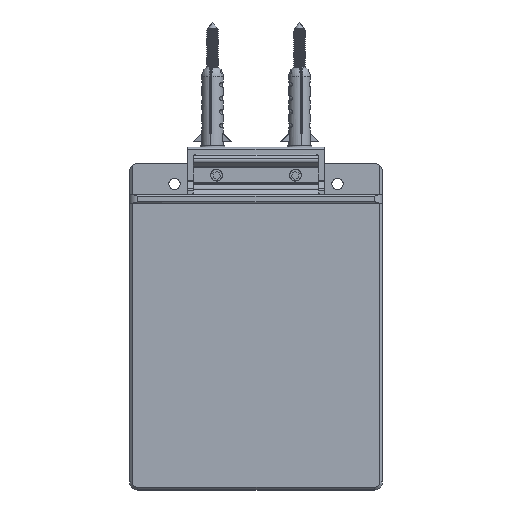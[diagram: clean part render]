
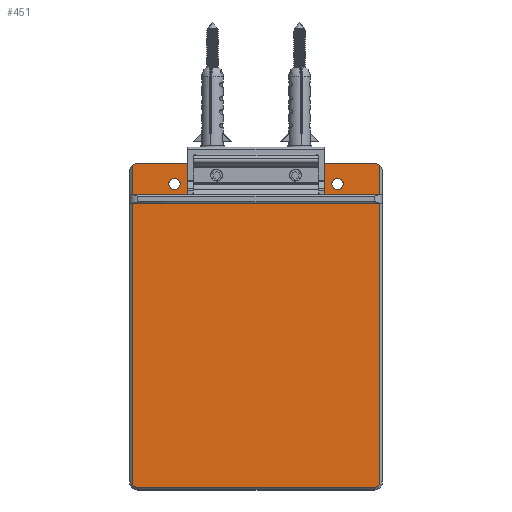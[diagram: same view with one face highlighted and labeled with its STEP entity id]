
A CAD part, front view. The second image highlights one B-rep face of the part: STEP entity #451.
In plain terms, the highlighted planar face has unit normal (0, -1, 0) as drawn and (0, 1, 0) by its records, which use the part's own axes.
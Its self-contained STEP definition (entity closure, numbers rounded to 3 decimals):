
#74 = EDGE_LOOP ( 'NONE', ( #3015, #19562 ) ) ;
#228 = AXIS2_PLACEMENT_3D ( 'NONE', #12761, #19065, #7594 ) ;
#256 = EDGE_CURVE ( 'NONE', #22562, #11544, #2352, .T. ) ;
#346 = VERTEX_POINT ( 'NONE', #8973 ) ;
#451 = ADVANCED_FACE ( 'NONE', ( #9547, #27166, #18086 ), #24668, .T. ) ;
#522 = VERTEX_POINT ( 'NONE', #22766 ) ;
#853 = VECTOR ( 'NONE', #1761, 1000. ) ;
#1538 = EDGE_LOOP ( 'NONE', ( #20199, #13604, #9579, #9861, #5447, #8101, #5039, #12631 ) ) ;
#1644 = AXIS2_PLACEMENT_3D ( 'NONE', #4857, #4721, #25133 ) ;
#1749 = CARTESIAN_POINT ( 'NONE',  ( 30., 0., 52.5 ) ) ;
#1761 = DIRECTION ( 'NONE',  ( -1., 0., 0. ) ) ;
#2242 = CARTESIAN_POINT ( 'NONE',  ( 45.5, 0., -57. ) ) ;
#2352 = CIRCLE ( 'NONE', #18811, 2. ) ;
#2625 = DIRECTION ( 'NONE',  ( 0., 0., 1. ) ) ;
#2698 = DIRECTION ( 'NONE',  ( 0., 0., 1. ) ) ;
#2740 = AXIS2_PLACEMENT_3D ( 'NONE', #1749, #4236, #12955 ) ;
#3015 = ORIENTED_EDGE ( 'NONE', *, *, #13388, .T. ) ;
#3017 = CARTESIAN_POINT ( 'NONE',  ( 43.5, 0., -59. ) ) ;
#3060 = CIRCLE ( 'NONE', #24119, 3. ) ;
#3220 = CARTESIAN_POINT ( 'NONE',  ( 43.5, 0., 57. ) ) ;
#4065 = AXIS2_PLACEMENT_3D ( 'NONE', #22514, #4280, #6353 ) ;
#4210 = VERTEX_POINT ( 'NONE', #8847 ) ;
#4236 = DIRECTION ( 'NONE',  ( 0., -1., 0. ) ) ;
#4280 = DIRECTION ( 'NONE',  ( 0., -1., 0. ) ) ;
#4461 = AXIS2_PLACEMENT_3D ( 'NONE', #25193, #27124, #9646 ) ;
#4667 = CARTESIAN_POINT ( 'NONE',  ( -30., 0., 54.6 ) ) ;
#4721 = DIRECTION ( 'NONE',  ( 0., -1., 0. ) ) ;
#4857 = CARTESIAN_POINT ( 'NONE',  ( 30., 0., 52.5 ) ) ;
#5039 = ORIENTED_EDGE ( 'NONE', *, *, #22293, .T. ) ;
#5274 = EDGE_CURVE ( 'NONE', #13455, #24355, #9249, .T. ) ;
#5447 = ORIENTED_EDGE ( 'NONE', *, *, #21714, .T. ) ;
#6317 = LINE ( 'NONE', #28782, #853 ) ;
#6353 = DIRECTION ( 'NONE',  ( 0., 0., -1. ) ) ;
#6535 = EDGE_LOOP ( 'NONE', ( #23553, #16594 ) ) ;
#7488 = DIRECTION ( 'NONE',  ( 0., 1., 0. ) ) ;
#7532 = LINE ( 'NONE', #7828, #11016 ) ;
#7594 = DIRECTION ( 'NONE',  ( 0., 0., -1. ) ) ;
#7668 = EDGE_CURVE ( 'NONE', #11544, #346, #6317, .T. ) ;
#7828 = CARTESIAN_POINT ( 'NONE',  ( -45.5, 0., 0. ) ) ;
#8101 = ORIENTED_EDGE ( 'NONE', *, *, #22777, .T. ) ;
#8847 = CARTESIAN_POINT ( 'NONE',  ( -45.5, 0., -57. ) ) ;
#8973 = CARTESIAN_POINT ( 'NONE',  ( -43.5, 0., -59. ) ) ;
#9112 = DIRECTION ( 'NONE',  ( 0., 1., 0. ) ) ;
#9249 = CIRCLE ( 'NONE', #4065, 2.1 ) ;
#9547 = FACE_BOUND ( 'NONE', #6535, .T. ) ;
#9579 = ORIENTED_EDGE ( 'NONE', *, *, #256, .T. ) ;
#9644 = VECTOR ( 'NONE', #14070, 1000. ) ;
#9646 = DIRECTION ( 'NONE',  ( 0., 0., 1. ) ) ;
#9861 = ORIENTED_EDGE ( 'NONE', *, *, #7668, .T. ) ;
#11016 = VECTOR ( 'NONE', #16808, 1000. ) ;
#11544 = VERTEX_POINT ( 'NONE', #3017 ) ;
#11570 = LINE ( 'NONE', #25332, #9644 ) ;
#11955 = LINE ( 'NONE', #12258, #23661 ) ;
#11996 = VERTEX_POINT ( 'NONE', #25450 ) ;
#12144 = CARTESIAN_POINT ( 'NONE',  ( -43.5, 0., 57. ) ) ;
#12258 = CARTESIAN_POINT ( 'NONE',  ( 46.5, 0., 60. ) ) ;
#12550 = EDGE_CURVE ( 'NONE', #24355, #13455, #25083, .T. ) ;
#12631 = ORIENTED_EDGE ( 'NONE', *, *, #22618, .T. ) ;
#12761 = CARTESIAN_POINT ( 'NONE',  ( -30., 0., 52.5 ) ) ;
#12955 = DIRECTION ( 'NONE',  ( 0., 0., -1. ) ) ;
#13388 = EDGE_CURVE ( 'NONE', #13787, #11996, #26986, .T. ) ;
#13455 = VERTEX_POINT ( 'NONE', #26918 ) ;
#13604 = ORIENTED_EDGE ( 'NONE', *, *, #21748, .T. ) ;
#13787 = VERTEX_POINT ( 'NONE', #24101 ) ;
#14070 = DIRECTION ( 'NONE',  ( 0., 0., -1. ) ) ;
#14255 = DIRECTION ( 'NONE',  ( 0., 0., 1. ) ) ;
#14490 = DIRECTION ( 'NONE',  ( 0., 0., 1. ) ) ;
#14593 = AXIS2_PLACEMENT_3D ( 'NONE', #16315, #9112, #2625 ) ;
#16315 = CARTESIAN_POINT ( 'NONE',  ( 0., 0., 0. ) ) ;
#16594 = ORIENTED_EDGE ( 'NONE', *, *, #12550, .T. ) ;
#16808 = DIRECTION ( 'NONE',  ( 0., 0., 1. ) ) ;
#18086 = FACE_OUTER_BOUND ( 'NONE', #1538, .T. ) ;
#18811 = AXIS2_PLACEMENT_3D ( 'NONE', #23419, #23267, #2698 ) ;
#19065 = DIRECTION ( 'NONE',  ( 0., -1., 0. ) ) ;
#19519 = EDGE_CURVE ( 'NONE', #11996, #13787, #24329, .T. ) ;
#19562 = ORIENTED_EDGE ( 'NONE', *, *, #19519, .T. ) ;
#19873 = CARTESIAN_POINT ( 'NONE',  ( 43.5, 0., 60. ) ) ;
#20199 = ORIENTED_EDGE ( 'NONE', *, *, #23620, .T. ) ;
#20907 = DIRECTION ( 'NONE',  ( 1., 0., 0. ) ) ;
#21093 = DIRECTION ( 'NONE',  ( 0., 1., 0. ) ) ;
#21714 = EDGE_CURVE ( 'NONE', #346, #4210, #26512, .T. ) ;
#21748 = EDGE_CURVE ( 'NONE', #522, #22562, #11570, .T. ) ;
#22005 = CARTESIAN_POINT ( 'NONE',  ( -43.5, 0., 60. ) ) ;
#22293 = EDGE_CURVE ( 'NONE', #24078, #24596, #3060, .T. ) ;
#22514 = CARTESIAN_POINT ( 'NONE',  ( -30., 0., 52.5 ) ) ;
#22562 = VERTEX_POINT ( 'NONE', #2242 ) ;
#22618 = EDGE_CURVE ( 'NONE', #24596, #28345, #11955, .T. ) ;
#22766 = CARTESIAN_POINT ( 'NONE',  ( 45.5, 0., 59.236 ) ) ;
#22777 = EDGE_CURVE ( 'NONE', #4210, #24078, #7532, .T. ) ;
#23267 = DIRECTION ( 'NONE',  ( 0., 1., 0. ) ) ;
#23419 = CARTESIAN_POINT ( 'NONE',  ( 43.5, 0., -57. ) ) ;
#23553 = ORIENTED_EDGE ( 'NONE', *, *, #5274, .T. ) ;
#23620 = EDGE_CURVE ( 'NONE', #28345, #522, #25071, .T. ) ;
#23661 = VECTOR ( 'NONE', #20907, 1000. ) ;
#24078 = VERTEX_POINT ( 'NONE', #26858 ) ;
#24101 = CARTESIAN_POINT ( 'NONE',  ( 30., 0., 50.4 ) ) ;
#24119 = AXIS2_PLACEMENT_3D ( 'NONE', #12144, #21093, #14490 ) ;
#24329 = CIRCLE ( 'NONE', #2740, 2.1 ) ;
#24355 = VERTEX_POINT ( 'NONE', #4667 ) ;
#24596 = VERTEX_POINT ( 'NONE', #22005 ) ;
#24668 = PLANE ( 'NONE',  #14593 ) ;
#25071 = CIRCLE ( 'NONE', #28833, 3. ) ;
#25083 = CIRCLE ( 'NONE', #228, 2.1 ) ;
#25133 = DIRECTION ( 'NONE',  ( 0., 0., -1. ) ) ;
#25193 = CARTESIAN_POINT ( 'NONE',  ( -43.5, 0., -57. ) ) ;
#25332 = CARTESIAN_POINT ( 'NONE',  ( 45.5, 0., 0. ) ) ;
#25450 = CARTESIAN_POINT ( 'NONE',  ( 30., 0., 54.6 ) ) ;
#26512 = CIRCLE ( 'NONE', #4461, 2. ) ;
#26858 = CARTESIAN_POINT ( 'NONE',  ( -45.5, 0., 59.236 ) ) ;
#26918 = CARTESIAN_POINT ( 'NONE',  ( -30., 0., 50.4 ) ) ;
#26986 = CIRCLE ( 'NONE', #1644, 2.1 ) ;
#27124 = DIRECTION ( 'NONE',  ( 0., 1., 0. ) ) ;
#27166 = FACE_BOUND ( 'NONE', #74, .T. ) ;
#28345 = VERTEX_POINT ( 'NONE', #19873 ) ;
#28782 = CARTESIAN_POINT ( 'NONE',  ( 0., 0., -59. ) ) ;
#28833 = AXIS2_PLACEMENT_3D ( 'NONE', #3220, #7488, #14255 ) ;
